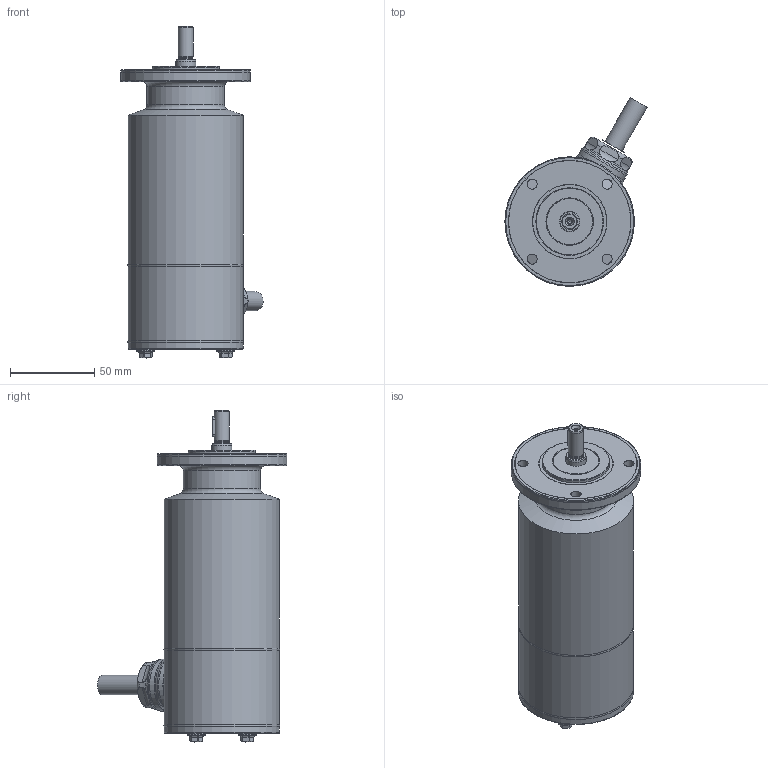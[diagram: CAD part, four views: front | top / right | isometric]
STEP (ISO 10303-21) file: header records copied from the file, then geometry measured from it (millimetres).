
FILE_DESCRIPTION(/* description */ (''),/* implementation_level */ '2;1');
FILE_NAME(/* name */ 'C:\Autodesk Vault\AUTODESK_VAULT\CAD\000-FERTIG Motors\DM-Motoren\DM055\_Gesamtbaugruppen\DM055Sxx1x.stp',/* time_stamp */ '2022-10-19T12:16:28+02:00',/* author */ ('MartinMue'),/* organization */ ('FERTIG Motors'),/* preprocessor_version */ 'ST-DEVELOPER v18.1',/* originating_system */ 'Autodesk Inventor 2021',/* authorisation */ '');
FILE_SCHEMA (('AUTOMOTIVE_DESIGN { 1 0 10303 214 3 1 1 }'));
Length unit declared in the file: millimetre
Products named in the file (3): DM055x_VM; DM055x_VM_1; DIN 6885-A3x3x12
Assembly tree (2 placements, depth 2):
  DM055x_VM
    DM055x_VM_1
    DIN 6885-A3x3x12
Bounding box: 84.52 x 112.41 x 197.26 mm (x, y, z)
Volume: 601927.9 mm3; surface area: 52046.9 mm2
Topology: 2 solids, 2 shells, 210 faces, 548 edges, 358 vertices
Faces by surface type: cylinder 91, plane 74, torus 23, cone 18, sphere 4
Full cylindrical faces by diameter (mm): 2.459 x1, 3.2 x1, 6 x4, 8.6 x1, 9 x1, 10.7 x4, 10.9 x4, 11.6 x1, 12 x1, 31 x1, 32.9 x1, 32.95 x1, 40 x1, 44.2 x1, 46 x1, 68.5 x3, 77 x2
Entity records: 7884 total; most frequent: CARTESIAN_POINT 2291, DIRECTION 1113, ORIENTED_EDGE 1094, EDGE_CURVE 547, AXIS2_PLACEMENT_3D 470, VERTEX_POINT 358, CIRCLE 252, EDGE_LOOP 235
